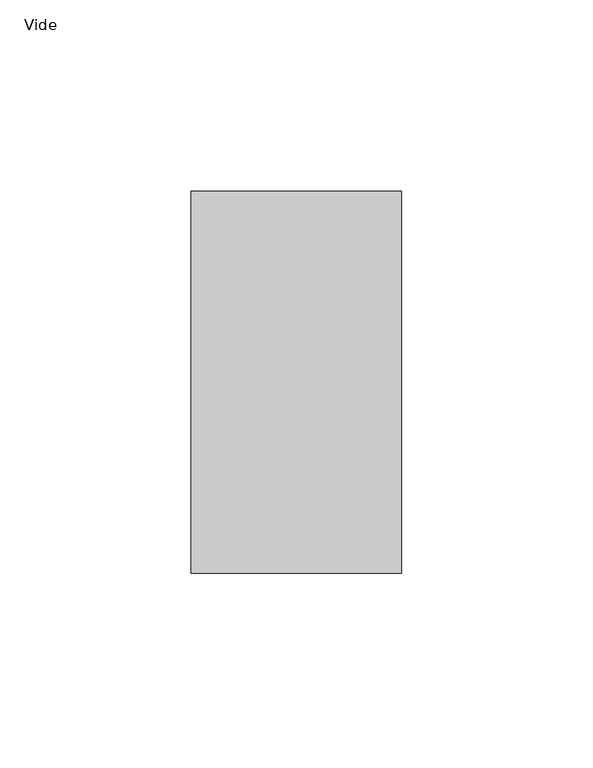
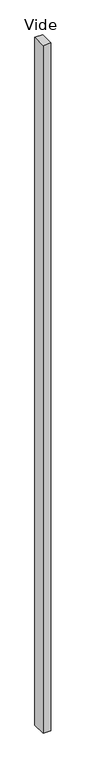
"""IFC4 building model written with IfcOpenShell, lengths in millimetres: plate geometry, Panneau système vide : Vide."""

import ifcopenshell
import ifcopenshell.guid

model = None  # the IFC model being written
_history = None  # IfcOwnerHistory: only IFC2X3 demands one
_inside = {}  # id of a spatial element -> (the spatial element, [elements in it])
_under = {}  # id of a project, library or spatial element -> (it, [spatial elements below it])
_declared = {}  # id of a project -> (the project, [libraries it declares])
_typed = {}  # id of a type object -> (the type object, [elements of that type])
_made_of = {}  # id of a material, layer set ... -> (it, [elements and type objects made of it])


def new_model(schema):
    """Start an empty IFC model of exactly this schema.

    Asked for "IFC4X3", IfcOpenShell would pick the latest addendum, in which some entities
    have other attributes; the version numbers below select the first issue.
    IFC2X3 requires an IfcOwnerHistory on every rooted entity: one is made here for all.
    """
    global model, _history
    if schema == "IFC4X3":
        model = ifcopenshell.file(schema_version=(4, 3, 0, 0))
    else:
        model = ifcopenshell.file(schema=schema)
    _inside.clear()
    _under.clear()
    _declared.clear()
    _typed.clear()
    _made_of.clear()
    _history = None
    if model.schema == "IFC2X3":
        org = make("IfcOrganization", Name="unknown")
        user = make(
            "IfcPersonAndOrganization",
            ThePerson=make("IfcPerson", FamilyName="unknown"),
            TheOrganization=org,
        )
        app = make(
            "IfcApplication",
            ApplicationDeveloper=org,
            Version="unknown",
            ApplicationFullName="unknown",
            ApplicationIdentifier="unknown",
        )
        _history = make(
            "IfcOwnerHistory",
            OwningUser=user,
            OwningApplication=app,
            ChangeAction="ADDED",
            CreationDate=0,
        )
    return model


def make(cls, **values):
    """One entity of the class cls with the attributes given. An attribute that is None is left unset."""
    return model.create_entity(
        cls, **{name: value for name, value in values.items() if value is not None}
    )


def rooted(cls, **values):
    """An entity with a GlobalId (a new one), such as an element, a storey or a relation."""
    return make(cls, GlobalId=ifcopenshell.guid.new(), OwnerHistory=_history, **values)


def si_unit(unit_type, name, prefix=None):
    """IfcSIUnit, for example si_unit("LENGTHUNIT", "METRE", prefix="MILLI")."""
    return make("IfcSIUnit", UnitType=unit_type, Prefix=prefix, Name=name)


def assignment(units):
    """IfcUnitAssignment: the units of a project."""
    return None if units is None else make("IfcUnitAssignment", Units=units)


def point(xyz):
    """IfcCartesianPoint."""
    return None if xyz is None else make("IfcCartesianPoint", Coordinates=xyz)


def direction(xyz):
    """IfcDirection."""
    return None if xyz is None else make("IfcDirection", DirectionRatios=xyz)


def frame(location, z_axis=None, x_axis=None):
    """IfcAxis2Placement3D, a coordinate frame: its origin and axes. An axis left out is left unset."""
    return make(
        "IfcAxis2Placement3D",
        Location=point(location),
        Axis=direction(z_axis),
        RefDirection=direction(x_axis),
    )


def origin():
    """The frame at (0, 0, 0) with its axes left unset."""
    return frame((0.0, 0.0, 0.0))


def origin_with_axes():
    """The frame at (0, 0, 0) with the z axis (0, 0, 1) and the x axis (1, 0, 0) written out."""
    return frame((0.0, 0.0, 0.0), z_axis=(0.0, 0.0, 1.0), x_axis=(1.0, 0.0, 0.0))


def place(relative_to, where):
    """IfcLocalPlacement: puts the frame where relative to a parent placement (None: the world)."""
    return make(
        "IfcLocalPlacement", PlacementRelTo=relative_to, RelativePlacement=where
    )


def context(
    kind, dimensions, precision=None, world=None, true_north=None, identifier=None
):
    """IfcGeometricRepresentationContext, for example the 3D "Model" context."""
    return make(
        "IfcGeometricRepresentationContext",
        ContextIdentifier=identifier,
        ContextType=kind,
        CoordinateSpaceDimension=dimensions,
        Precision=precision,
        WorldCoordinateSystem=world,
        TrueNorth=true_north,
    )


def project(units=None, contexts=None):
    """IfcProject with its units and contexts."""
    return rooted(
        "IfcProject",
        Name="project",
        RepresentationContexts=contexts,
        UnitsInContext=assignment(units),
    )


def spatial(cls, under=None, at=None, **own):
    """A site, building, storey or space (cls), placed at a placement, below another one or the project."""
    s = rooted(cls, ObjectPlacement=at, **own)
    if under is not None:
        _under.setdefault(under.id(), (under, []))[1].append(s)
    return s


def polyline(points):
    """IfcPolyline through the points."""
    return make("IfcPolyline", Points=[point(p) for p in points])


def outline(outer, holes=None, kind="AREA"):
    """IfcArbitraryClosedProfileDef: a profile drawn as a closed curve; with holes, ...WithVoids."""
    if holes is None:
        return make("IfcArbitraryClosedProfileDef", ProfileType=kind, OuterCurve=outer)
    return make(
        "IfcArbitraryProfileDefWithVoids",
        ProfileType=kind,
        OuterCurve=outer,
        InnerCurves=holes,
    )


def extrude(swept, where, along, depth):
    """IfcExtrudedAreaSolid: the profile swept, set in the frame where, extruded along a direction by depth."""
    return make(
        "IfcExtrudedAreaSolid",
        SweptArea=swept,
        Position=where,
        ExtrudedDirection=direction(along),
        Depth=depth,
    )


def shape(context_of_items, identifier, shape_type, items):
    """IfcShapeRepresentation: the items that make up one representation, for example the "Body"."""
    return make(
        "IfcShapeRepresentation",
        ContextOfItems=context_of_items,
        RepresentationIdentifier=identifier,
        RepresentationType=shape_type,
        Items=items,
    )


def source(mapping_origin, context_of_items, identifier, shape_type, items):
    """IfcRepresentationMap: a shape defined once, which mapped items show again and again."""
    return make(
        "IfcRepresentationMap",
        MappingOrigin=mapping_origin,
        MappedRepresentation=shape(context_of_items, identifier, shape_type, items),
    )


def transform(
    local_origin,
    x_axis=None,
    y_axis=None,
    z_axis=None,
    scale=None,
    scale2=None,
    scale3=None,
    uniform=True,
):
    """IfcCartesianTransformationOperator3D, or its non-uniform kind. x_axis, y_axis, z_axis: its Axis1, 2, 3."""
    if uniform:
        return make(
            "IfcCartesianTransformationOperator3D",
            Axis1=direction(x_axis),
            Axis2=direction(y_axis),
            LocalOrigin=point(local_origin),
            Scale=scale,
            Axis3=direction(z_axis),
        )
    return make(
        "IfcCartesianTransformationOperator3DnonUniform",
        Axis1=direction(x_axis),
        Axis2=direction(y_axis),
        LocalOrigin=point(local_origin),
        Scale=scale,
        Axis3=direction(z_axis),
        Scale2=scale2,
        Scale3=scale3,
    )


def mapped(mapping_source, mapping_target):
    """IfcMappedItem: shows the shape of a source again, moved by a transform."""
    return make(
        "IfcMappedItem", MappingSource=mapping_source, MappingTarget=mapping_target
    )


def made_of(thing, what):
    """Note that an element or type object is made of a material, layer set ...; save() writes the relation."""
    if what is not None:
        _made_of.setdefault(what.id(), (what, []))[1].append(thing)
    return thing


def element(
    cls,
    number,
    at=None,
    inside=None,
    cuts=None,
    type_object=None,
    material=None,
    context=None,
    identifier="Body",
    shape_type=None,
    held_by="IfcProductDefinitionShape",
    body=None,
    shapes=None,
    **own,
):
    """One element of the class cls, such as IfcWall. Its Tag is "e" and its number.

    at: its placement. inside: the storey or other place that contains it. cuts: it is an
    opening in that element (IfcRelVoidsElement). A single representation is given by context,
    identifier, shape_type and body (its items); several are given by shapes. held_by: the class
    of the entity that holds the representations. save() writes the other relations.
    """
    e = rooted(cls, Tag="e%d" % number, ObjectPlacement=at, **own)
    if body is not None:
        shapes = [shape(context, identifier, shape_type, body)]
    if shapes is not None:
        e.Representation = make(held_by, Representations=shapes)
    if inside is not None:
        _inside.setdefault(inside.id(), (inside, []))[1].append(e)
    if cuts is not None:
        rooted(
            "IfcRelVoidsElement", RelatingBuildingElement=cuts, RelatedOpeningElement=e
        )
    if type_object is not None:
        _typed.setdefault(type_object.id(), (type_object, []))[1].append(e)
    return made_of(e, material)


def aggregate(whole, parts):
    """IfcRelAggregates: a whole, such as a stair, and the parts it consists of."""
    return rooted("IfcRelAggregates", RelatingObject=whole, RelatedObjects=parts)


def save(model, path):
    """Write the relations noted so far, then the file.

    IfcRelAggregates (storeys below a building ...), IfcRelContainedInSpatialStructure (elements
    in a storey), IfcRelDefinesByType, IfcRelAssociatesMaterial and IfcRelDeclares: one each for
    every whole, place, type object, material and project.
    """
    for whole, parts in _under.values():
        aggregate(whole, parts)
    for where, things in _inside.values():
        rooted(
            "IfcRelContainedInSpatialStructure",
            RelatedElements=things,
            RelatingStructure=where,
        )
    for kind, things in _typed.values():
        rooted("IfcRelDefinesByType", RelatedObjects=things, RelatingType=kind)
    for what, things in _made_of.values():
        rooted("IfcRelAssociatesMaterial", RelatedObjects=things, RelatingMaterial=what)
    for by, libraries in _declared.values():
        rooted("IfcRelDeclares", RelatingContext=by, RelatedDefinitions=libraries)
    model.write(path)


def vide_ad1feedb(model_context):
    return source(origin(), model_context, "Body", "SweptSolid", [
        extrude(outline(polyline([(27.5710382, 50.0), (-27.5710382, 50.0), (-27.5710382, 150.0), (27.5710382, 150.0), (27.5710382, 50.0)])), origin_with_axes(), (0.0, 0.0, 1.0), 5176.3809021),
    ])


if __name__ == "__main__":
    model = new_model("IFC4")
    model_context = context("Model", 3, world=origin())
    ifc_project = project(units=[si_unit("LENGTHUNIT", "METRE", prefix="MILLI")], contexts=[model_context])
    site = spatial("IfcSite", under=ifc_project)
    building = spatial("IfcBuilding", under=site)
    placement = place(None, origin())
    vide_shape = vide_ad1feedb(model_context)
    element("IfcPlate", 1, ObjectType="Panneau système vide : Vide", at=placement, inside=building, context=model_context, shape_type="MappedRepresentation", body=[
        mapped(vide_shape, transform((0.0, 0.0, 0.0), x_axis=(1.0, 0.0, 0.0), y_axis=(0.0, 1.0, 0.0), z_axis=(0.0, 0.0, 1.0))),
    ])
    save(model, "model.ifc")
